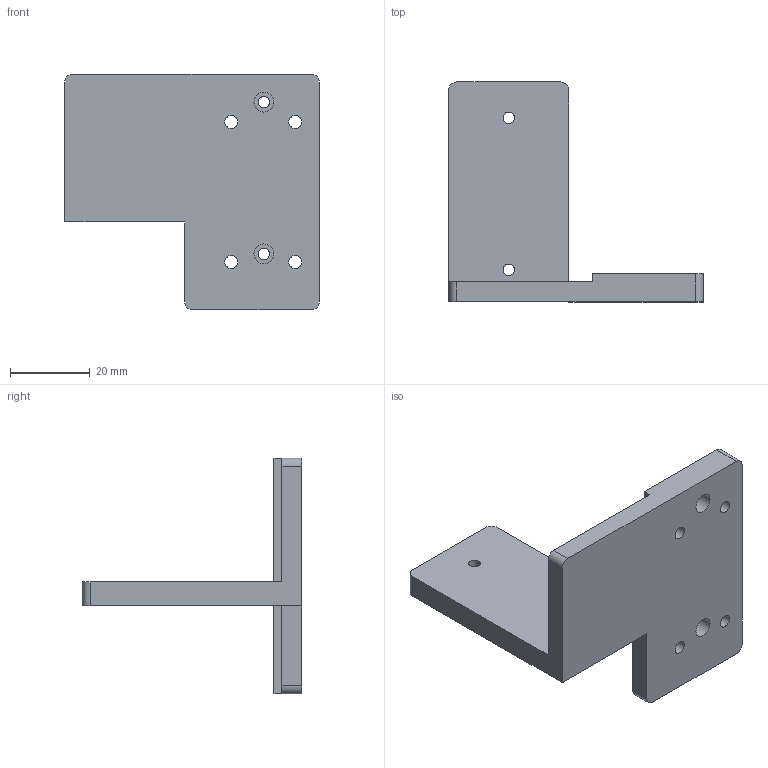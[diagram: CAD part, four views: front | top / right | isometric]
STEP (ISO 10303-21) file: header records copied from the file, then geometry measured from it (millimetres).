
FILE_DESCRIPTION(/* description */ (''),/* implementation_level */ '2;1');
FILE_NAME(/* name */ 'supporter-2.stp',/* time_stamp */ '2026-04-15T18:55:09+08:00',/* author */ ('xuwenjie'),/* organization */ (''),/* preprocessor_version */ 'ST-DEVELOPER v20',/* originating_system */ 'Autodesk Inventor 2024',/* authorisation */ '');
FILE_SCHEMA (('AUTOMOTIVE_DESIGN { 1 0 10303 214 3 1 1 }'));
Length unit declared in the file: millimetre
Products named in the file (1): aod-2
Bounding box: 63.6 x 55 x 59 mm (x, y, z)
Volume: 27115.6 mm3; surface area: 11804.9 mm2
Topology: 1 solids, 1 shells, 35 faces, 86 edges, 57 vertices
Faces by surface type: cylinder 18, plane 17
Full cylindrical faces by diameter (mm): 2.9 x4, 3.242 x4, 5 x4
Entity records: 1123 total; most frequent: DIRECTION 194, CARTESIAN_POINT 179, ORIENTED_EDGE 172, EDGE_CURVE 86, AXIS2_PLACEMENT_3D 72, VERTEX_POINT 57, EDGE_LOOP 55, LINE 50
